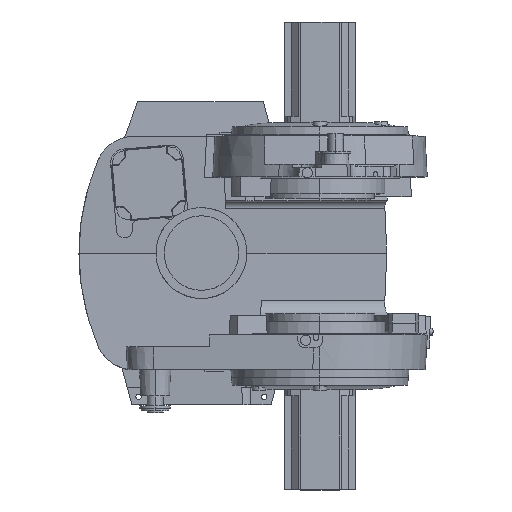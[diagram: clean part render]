
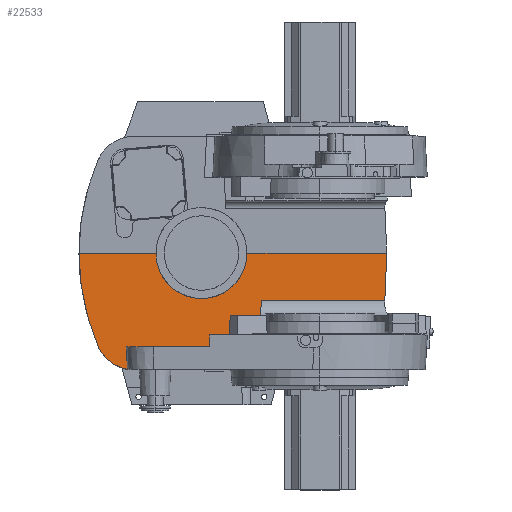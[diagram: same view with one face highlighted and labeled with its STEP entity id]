
A CAD part, top view. The second image highlights one B-rep face of the part: STEP entity #22533.
In plain terms, the highlighted planar face has unit normal (0, 0.035, 0.999).
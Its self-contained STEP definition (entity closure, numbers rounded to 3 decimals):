
#31 = CARTESIAN_POINT ( 'NONE',  ( 67.365, -115., 459.016 ) ) ;
#294 = CARTESIAN_POINT ( 'NONE',  ( 0., -119.396, 459.169 ) ) ;
#1305 = EDGE_CURVE ( 'NONE', #25837, #23565, #20129, .T. ) ;
#1513 = CARTESIAN_POINT ( 'NONE',  ( 147.206, -238., 463.311 ) ) ;
#1770 = CARTESIAN_POINT ( 'NONE',  ( -293.775, -160.151, 460.593 ) ) ;
#2029 = CARTESIAN_POINT ( 'NONE',  ( 10., -295.5, 465.319 ) ) ;
#2184 = DIRECTION ( 'NONE',  ( -1., 0., 0. ) ) ;
#2676 =( BOUNDED_CURVE ( )  B_SPLINE_CURVE ( 3, ( #28463, #7686, #31, #10291 ),
 .UNSPECIFIED., .F., .T. ) 
 B_SPLINE_CURVE_WITH_KNOTS ( ( 4, 4 ),
 ( 1.571, 3.142 ),
 .UNSPECIFIED. ) 
 CURVE ( )  GEOMETRIC_REPRESENTATION_ITEM ( )  RATIONAL_B_SPLINE_CURVE ( ( 1., 0.805, 0.805, 1. ) ) 
 REPRESENTATION_ITEM ( '' )  );
#3102 =( BOUNDED_CURVE ( )  B_SPLINE_CURVE ( 3, ( #8021, #3184, #28254, #18915 ),
 .UNSPECIFIED., .F., .F. ) 
 B_SPLINE_CURVE_WITH_KNOTS ( ( 4, 4 ),
 ( 0., 1.169 ),
 .UNSPECIFIED. ) 
 CURVE ( )  GEOMETRIC_REPRESENTATION_ITEM ( )  RATIONAL_B_SPLINE_CURVE ( ( 1., 0.889, 0.889, 1. ) ) 
 REPRESENTATION_ITEM ( '' )  );
#3184 = CARTESIAN_POINT ( 'NONE',  ( -211.475, -295.5, 465.319 ) ) ;
#3360 =( BOUNDED_CURVE ( )  B_SPLINE_CURVE ( 3, ( #19967, #4669, #9882, #27628 ),
 .UNSPECIFIED., .F., .T. ) 
 B_SPLINE_CURVE_WITH_KNOTS ( ( 4, 4 ),
 ( 3.142, 4.712 ),
 .UNSPECIFIED. ) 
 CURVE ( )  GEOMETRIC_REPRESENTATION_ITEM ( )  RATIONAL_B_SPLINE_CURVE ( ( 1., 0.805, 0.805, 1. ) ) 
 REPRESENTATION_ITEM ( '' )  );
#3459 = VERTEX_POINT ( 'NONE', #24988 ) ;
#3899 = VERTEX_POINT ( 'NONE', #26962 ) ;
#4425 = LINE ( 'NONE', #29864, #29959 ) ;
#4429 = LINE ( 'NONE', #15110, #10098 ) ;
#4553 = DIRECTION ( 'NONE',  ( -0.052, 0.998, -0.035 ) ) ;
#4669 = CARTESIAN_POINT ( 'NONE',  ( -67.365, -115., 459.016 ) ) ;
#4732 = CARTESIAN_POINT ( 'NONE',  ( 0., 0., 455. ) ) ;
#5775 = CARTESIAN_POINT ( 'NONE',  ( 0., -115., 459.016 ) ) ;
#7286 = CARTESIAN_POINT ( 'NONE',  ( -115., 0., 455. ) ) ;
#7345 = PLANE ( 'NONE',  #11558 ) ;
#7686 = CARTESIAN_POINT ( 'NONE',  ( 115., -67.365, 457.352 ) ) ;
#7699 = VECTOR ( 'NONE', #8425, 1000. ) ;
#7780 = ORIENTED_EDGE ( 'NONE', *, *, #23665, .T. ) ;
#8021 = CARTESIAN_POINT ( 'NONE',  ( -170.108, -295.5, 465.319 ) ) ;
#8425 = DIRECTION ( 'NONE',  ( 0.043, 0.998, -0.035 ) ) ;
#8503 = LINE ( 'NONE', #31266, #12927 ) ;
#8592 = VECTOR ( 'NONE', #29606, 1000. ) ;
#8725 = ORIENTED_EDGE ( 'NONE', *, *, #1305, .T. ) ;
#9297 = EDGE_CURVE ( 'NONE', #3899, #31022, #10960, .T. ) ;
#9882 = CARTESIAN_POINT ( 'NONE',  ( -115., -67.365, 457.352 ) ) ;
#10098 = VECTOR ( 'NONE', #2184, 1000. ) ;
#10291 = CARTESIAN_POINT ( 'NONE',  ( 0., -115., 459.016 ) ) ;
#10665 = CARTESIAN_POINT ( 'NONE',  ( 6.987, -238., 463.311 ) ) ;
#10680 = VERTEX_POINT ( 'NONE', #5775 ) ;
#10960 = LINE ( 'NONE', #294, #25641 ) ;
#10968 = VERTEX_POINT ( 'NONE', #10665 ) ;
#11249 = VERTEX_POINT ( 'NONE', #27387 ) ;
#11406 = LINE ( 'NONE', #1513, #8592 ) ;
#11454 = CARTESIAN_POINT ( 'NONE',  ( 464.011, -119.396, 459.169 ) ) ;
#11558 = AXIS2_PLACEMENT_3D ( 'NONE', #4732, #22701, #12751 ) ;
#11677 = EDGE_CURVE ( 'NONE', #11249, #3899, #11406, .T. ) ;
#11889 = CARTESIAN_POINT ( 'NONE',  ( -309.913, -80.889, 457.825 ) ) ;
#12341 = CARTESIAN_POINT ( 'NONE',  ( -262.147, -234.6, 463.192 ) ) ;
#12751 = DIRECTION ( 'NONE',  ( 1., 0., 0. ) ) ;
#12927 = VECTOR ( 'NONE', #16179, 1000. ) ;
#13064 = EDGE_CURVE ( 'NONE', #26995, #10968, #4425, .T. ) ;
#13136 = DIRECTION ( 'NONE',  ( 1., 0., 0. ) ) ;
#13990 = LINE ( 'NONE', #31823, #29458 ) ;
#15110 = CARTESIAN_POINT ( 'NONE',  ( 0., 0., 455. ) ) ;
#15263 = VERTEX_POINT ( 'NONE', #26938 ) ;
#16179 = DIRECTION ( 'NONE',  ( -1., 0., 0. ) ) ;
#16285 = EDGE_CURVE ( 'NONE', #27353, #25837, #8503, .T. ) ;
#17923 = EDGE_CURVE ( 'NONE', #3459, #10680, #2676, .T. ) ;
#18033 = EDGE_CURVE ( 'NONE', #26995, #15263, #28944, .T. ) ;
#18093 = ORIENTED_EDGE ( 'NONE', *, *, #18033, .F. ) ;
#18704 = CARTESIAN_POINT ( 'NONE',  ( 464.011, -119.396, 459.169 ) ) ;
#18915 = CARTESIAN_POINT ( 'NONE',  ( -262.147, -234.6, 463.192 ) ) ;
#19081 = EDGE_CURVE ( 'NONE', #15263, #23565, #3102, .T. ) ;
#19226 = ORIENTED_EDGE ( 'NONE', *, *, #9297, .T. ) ;
#19673 = EDGE_LOOP ( 'NONE', ( #29384, #30918, #21256, #29996, #8725, #29688, #18093, #30839, #7780, #19852, #19226, #19674 ) ) ;
#19674 = ORIENTED_EDGE ( 'NONE', *, *, #20273, .T. ) ;
#19852 = ORIENTED_EDGE ( 'NONE', *, *, #11677, .T. ) ;
#19967 = CARTESIAN_POINT ( 'NONE',  ( 0., -115., 459.016 ) ) ;
#20129 =( BOUNDED_CURVE ( )  B_SPLINE_CURVE ( 3, ( #24757, #11889, #1770, #12341 ),
 .UNSPECIFIED., .F., .F. ) 
 B_SPLINE_CURVE_WITH_KNOTS ( ( 4, 4 ),
 ( 4.712, 5.114 ),
 .UNSPECIFIED. ) 
 CURVE ( )  GEOMETRIC_REPRESENTATION_ITEM ( )  RATIONAL_B_SPLINE_CURVE ( ( 1., 0.987, 0.987, 1. ) ) 
 REPRESENTATION_ITEM ( '' )  );
#20273 = EDGE_CURVE ( 'NONE', #31022, #22096, #20436, .T. ) ;
#20436 = LINE ( 'NONE', #11454, #7699 ) ;
#21005 = CARTESIAN_POINT ( 'NONE',  ( 570., -295.5, 465.319 ) ) ;
#21256 = ORIENTED_EDGE ( 'NONE', *, *, #23836, .T. ) ;
#22096 = VERTEX_POINT ( 'NONE', #24125 ) ;
#22518 = EDGE_CURVE ( 'NONE', #22096, #3459, #4429, .T. ) ;
#22533 = ADVANCED_FACE ( 'NONE', ( #28744 ), #7345, .T. ) ;
#22701 = DIRECTION ( 'NONE',  ( 0., 0.035, 0.999 ) ) ;
#23565 = VERTEX_POINT ( 'NONE', #26344 ) ;
#23591 = DIRECTION ( 'NONE',  ( -1., 0., 0. ) ) ;
#23665 = EDGE_CURVE ( 'NONE', #10968, #11249, #13990, .T. ) ;
#23836 = EDGE_CURVE ( 'NONE', #10680, #27353, #3360, .T. ) ;
#24125 = CARTESIAN_POINT ( 'NONE',  ( 469.153, 0., 455. ) ) ;
#24757 = CARTESIAN_POINT ( 'NONE',  ( -309.913, 0., 455. ) ) ;
#24988 = CARTESIAN_POINT ( 'NONE',  ( 115., 0., 455. ) ) ;
#25073 = CARTESIAN_POINT ( 'NONE',  ( -309.913, 0., 455. ) ) ;
#25641 = VECTOR ( 'NONE', #13136, 1000. ) ;
#25837 = VERTEX_POINT ( 'NONE', #25073 ) ;
#26344 = CARTESIAN_POINT ( 'NONE',  ( -262.147, -234.6, 463.192 ) ) ;
#26938 = CARTESIAN_POINT ( 'NONE',  ( -170.108, -295.5, 465.319 ) ) ;
#26962 = CARTESIAN_POINT ( 'NONE',  ( 151.348, -119.396, 459.169 ) ) ;
#26995 = VERTEX_POINT ( 'NONE', #2029 ) ;
#27353 = VERTEX_POINT ( 'NONE', #7286 ) ;
#27387 = CARTESIAN_POINT ( 'NONE',  ( 147.206, -238., 463.311 ) ) ;
#27628 = CARTESIAN_POINT ( 'NONE',  ( -115., 0., 455. ) ) ;
#28254 = CARTESIAN_POINT ( 'NONE',  ( -245.973, -272.673, 464.522 ) ) ;
#28463 = CARTESIAN_POINT ( 'NONE',  ( 115., 0., 455. ) ) ;
#28744 = FACE_OUTER_BOUND ( 'NONE', #19673, .T. ) ;
#28944 = LINE ( 'NONE', #21005, #32979 ) ;
#29360 = DIRECTION ( 'NONE',  ( 1., 0., 0. ) ) ;
#29384 = ORIENTED_EDGE ( 'NONE', *, *, #22518, .T. ) ;
#29458 = VECTOR ( 'NONE', #29360, 1000. ) ;
#29606 = DIRECTION ( 'NONE',  ( 0.035, 0.999, -0.035 ) ) ;
#29688 = ORIENTED_EDGE ( 'NONE', *, *, #19081, .F. ) ;
#29864 = CARTESIAN_POINT ( 'NONE',  ( 10., -295.5, 465.319 ) ) ;
#29959 = VECTOR ( 'NONE', #4553, 1000. ) ;
#29996 = ORIENTED_EDGE ( 'NONE', *, *, #16285, .T. ) ;
#30839 = ORIENTED_EDGE ( 'NONE', *, *, #13064, .T. ) ;
#30918 = ORIENTED_EDGE ( 'NONE', *, *, #17923, .T. ) ;
#31022 = VERTEX_POINT ( 'NONE', #18704 ) ;
#31266 = CARTESIAN_POINT ( 'NONE',  ( 0., 0., 455. ) ) ;
#31823 = CARTESIAN_POINT ( 'NONE',  ( 0., -238., 463.311 ) ) ;
#32979 = VECTOR ( 'NONE', #23591, 1000. ) ;
